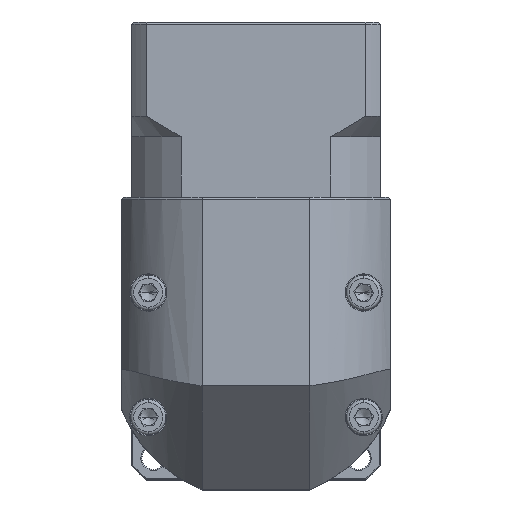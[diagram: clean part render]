
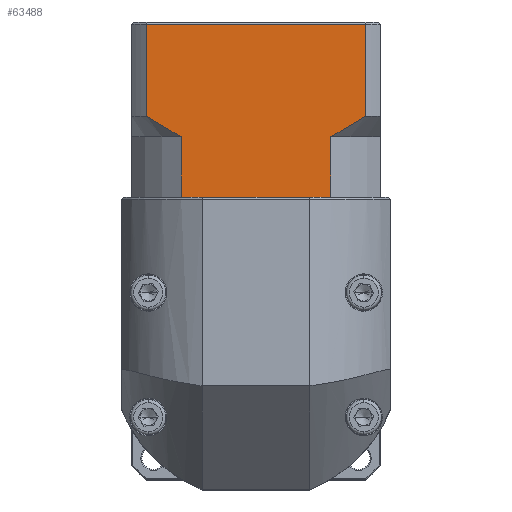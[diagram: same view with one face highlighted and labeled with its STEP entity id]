
A CAD part, top view. The second image highlights one B-rep face of the part: STEP entity #63488.
In plain terms, the highlighted planar face has unit normal (0, 0, 1).
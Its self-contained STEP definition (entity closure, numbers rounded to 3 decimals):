
#2019 = CARTESIAN_POINT ( 'NONE',  ( -81.449, 88.99, 55.322 ) ) ;
#6143 = VERTEX_POINT ( 'NONE', #60533 ) ;
#7122 = CARTESIAN_POINT ( 'NONE',  ( -81.449, 89.49, 55.322 ) ) ;
#8568 = EDGE_CURVE ( 'NONE', #103195, #83133, #104424, .T. ) ;
#9041 = CARTESIAN_POINT ( 'NONE',  ( -81.449, 47.29, 55.322 ) ) ;
#9168 = CARTESIAN_POINT ( 'NONE',  ( -30.54, 63.341, 55.322 ) ) ;
#10555 = VECTOR ( 'NONE', #23513, 1000. ) ;
#11459 = CARTESIAN_POINT ( 'NONE',  ( -69.477, 61.79, 55.322 ) ) ;
#15040 = EDGE_LOOP ( 'NONE', ( #28562, #73381, #57842, #35491, #72743, #55281, #79365, #35586, #102764, #100928 ) ) ;
#15438 = LINE ( 'NONE', #46367, #99660 ) ;
#15610 = EDGE_CURVE ( 'NONE', #40747, #96659, #81964, .T. ) ;
#16130 = CARTESIAN_POINT ( 'NONE',  ( -33.422, 61.79, 55.322 ) ) ;
#16769 = VECTOR ( 'NONE', #112365, 1000. ) ;
#17943 = VECTOR ( 'NONE', #53264, 1000. ) ;
#18625 = DIRECTION ( 'NONE',  ( 0., -1., 0. ) ) ;
#20793 = EDGE_CURVE ( 'NONE', #106658, #47319, #109268, .T. ) ;
#21655 = CARTESIAN_POINT ( 'NONE',  ( -77.907, 66.79, 55.322 ) ) ;
#22036 = CARTESIAN_POINT ( 'NONE',  ( -76.547, 65.891, 55.322 ) ) ;
#23513 = DIRECTION ( 'NONE',  ( 1., 0., 0. ) ) ;
#23944 = CARTESIAN_POINT ( 'NONE',  ( -70.929, 62.538, 55.322 ) ) ;
#24553 = DIRECTION ( 'NONE',  ( 0., 0., -1. ) ) ;
#27784 = DIRECTION ( 'NONE',  ( 0., -1., 0. ) ) ;
#28562 = ORIENTED_EDGE ( 'NONE', *, *, #41984, .F. ) ;
#30602 = CARTESIAN_POINT ( 'NONE',  ( -68.486, 47.29, 55.322 ) ) ;
#32317 = DIRECTION ( 'NONE',  ( 1., 0., 0. ) ) ;
#33046 = CARTESIAN_POINT ( 'NONE',  ( -69.477, 61.79, 55.322 ) ) ;
#33486 = AXIS2_PLACEMENT_3D ( 'NONE', #7122, #24553, #59478 ) ;
#34674 = CARTESIAN_POINT ( 'NONE',  ( -77.907, 66.79, 55.322 ) ) ;
#34704 = CARTESIAN_POINT ( 'NONE',  ( -24.992, 66.79, 55.322 ) ) ;
#35491 = ORIENTED_EDGE ( 'NONE', *, *, #15610, .T. ) ;
#35586 = ORIENTED_EDGE ( 'NONE', *, *, #20793, .T. ) ;
#35724 = CARTESIAN_POINT ( 'NONE',  ( -24.992, 66.79, 55.322 ) ) ;
#35769 = CARTESIAN_POINT ( 'NONE',  ( -33.422, 47.29, 55.322 ) ) ;
#39660 = LINE ( 'NONE', #2019, #17943 ) ;
#40179 = CARTESIAN_POINT ( 'NONE',  ( -69.477, 61.79, 55.322 ) ) ;
#40747 = VERTEX_POINT ( 'NONE', #34674 ) ;
#41984 = EDGE_CURVE ( 'NONE', #6143, #83133, #107593, .T. ) ;
#42446 = VECTOR ( 'NONE', #32317, 1000. ) ;
#45744 = EDGE_CURVE ( 'NONE', #40747, #90830, #52411, .T. ) ;
#46367 = CARTESIAN_POINT ( 'NONE',  ( -33.422, 61.79, 55.322 ) ) ;
#46589 = VECTOR ( 'NONE', #27784, 1000. ) ;
#47319 = VERTEX_POINT ( 'NONE', #35769 ) ;
#48929 = DIRECTION ( 'NONE',  ( 0., 1., 0. ) ) ;
#49329 = PLANE ( 'NONE',  #33486 ) ;
#49730 = VECTOR ( 'NONE', #72968, 1000. ) ;
#51138 = VERTEX_POINT ( 'NONE', #82625 ) ;
#51744 = CARTESIAN_POINT ( 'NONE',  ( -31.965, 62.54, 55.322 ) ) ;
#52411 = LINE ( 'NONE', #90018, #49730 ) ;
#53264 = DIRECTION ( 'NONE',  ( -1., 0., 0. ) ) ;
#55281 = ORIENTED_EDGE ( 'NONE', *, *, #103463, .T. ) ;
#57842 = ORIENTED_EDGE ( 'NONE', *, *, #45744, .F. ) ;
#58974 = EDGE_CURVE ( 'NONE', #6143, #90830, #39660, .T. ) ;
#59478 = DIRECTION ( 'NONE',  ( 0., 1., 0. ) ) ;
#60458 = CARTESIAN_POINT ( 'NONE',  ( -26.355, 65.889, 55.322 ) ) ;
#60533 = CARTESIAN_POINT ( 'NONE',  ( -24.992, 88.99, 55.322 ) ) ;
#61245 = CARTESIAN_POINT ( 'NONE',  ( -24.992, 61.79, 55.322 ) ) ;
#63488 = ADVANCED_FACE ( 'NONE', ( #67474 ), #49329, .F. ) ;
#65151 = EDGE_CURVE ( 'NONE', #51138, #96659, #112583, .T. ) ;
#67474 = FACE_OUTER_BOUND ( 'NONE', #15040, .T. ) ;
#70097 = EDGE_CURVE ( 'NONE', #103195, #47319, #15438, .T. ) ;
#72743 = ORIENTED_EDGE ( 'NONE', *, *, #65151, .F. ) ;
#72968 = DIRECTION ( 'NONE',  ( 0., 1., 0. ) ) ;
#73381 = ORIENTED_EDGE ( 'NONE', *, *, #58974, .T. ) ;
#74952 = CARTESIAN_POINT ( 'NONE',  ( -81.449, 47.29, 55.322 ) ) ;
#75743 = VECTOR ( 'NONE', #48929, 1000. ) ;
#75994 = CARTESIAN_POINT ( 'NONE',  ( -75.168, 65.017, 55.322 ) ) ;
#77756 = LINE ( 'NONE', #74952, #42446 ) ;
#78661 = CARTESIAN_POINT ( 'NONE',  ( -27.734, 65.015, 55.322 ) ) ;
#79365 = ORIENTED_EDGE ( 'NONE', *, *, #112221, .T. ) ;
#81964 = B_SPLINE_CURVE_WITH_KNOTS ( 'NONE', 3,
 ( #21655, #22036, #75994, #82415, #23944, #33046 ),
 .UNSPECIFIED., .F., .F.,
 ( 4, 2, 4 ),
 ( 0.052, 0.057, 0.062 ),
 .UNSPECIFIED. ) ;
#82351 = CARTESIAN_POINT ( 'NONE',  ( -34.413, 47.29, 55.322 ) ) ;
#82415 = CARTESIAN_POINT ( 'NONE',  ( -72.361, 63.342, 55.322 ) ) ;
#82625 = CARTESIAN_POINT ( 'NONE',  ( -69.477, 47.29, 55.322 ) ) ;
#83133 = VERTEX_POINT ( 'NONE', #34704 ) ;
#83526 = CARTESIAN_POINT ( 'NONE',  ( -81.449, 47.29, 55.322 ) ) ;
#83866 = LINE ( 'NONE', #83526, #10555 ) ;
#87264 = VERTEX_POINT ( 'NONE', #30602 ) ;
#90018 = CARTESIAN_POINT ( 'NONE',  ( -77.907, 61.79, 55.322 ) ) ;
#90531 = CARTESIAN_POINT ( 'NONE',  ( -77.907, 88.99, 55.322 ) ) ;
#90830 = VERTEX_POINT ( 'NONE', #90531 ) ;
#95364 = CARTESIAN_POINT ( 'NONE',  ( -33.422, 61.79, 55.322 ) ) ;
#96659 = VERTEX_POINT ( 'NONE', #11459 ) ;
#99660 = VECTOR ( 'NONE', #18625, 1000. ) ;
#100928 = ORIENTED_EDGE ( 'NONE', *, *, #8568, .T. ) ;
#102764 = ORIENTED_EDGE ( 'NONE', *, *, #70097, .F. ) ;
#103195 = VERTEX_POINT ( 'NONE', #16130 ) ;
#103463 = EDGE_CURVE ( 'NONE', #51138, #87264, #77756, .T. ) ;
#104424 = B_SPLINE_CURVE_WITH_KNOTS ( 'NONE', 3,
 ( #95364, #51744, #9168, #78661, #60458, #35724 ),
 .UNSPECIFIED., .F., .F.,
 ( 4, 2, 4 ),
 ( 0.1, 0.104, 0.109 ),
 .UNSPECIFIED. ) ;
#106658 = VERTEX_POINT ( 'NONE', #82351 ) ;
#107593 = LINE ( 'NONE', #61245, #46589 ) ;
#109268 = LINE ( 'NONE', #9041, #16769 ) ;
#112221 = EDGE_CURVE ( 'NONE', #87264, #106658, #83866, .T. ) ;
#112365 = DIRECTION ( 'NONE',  ( 1., 0., 0. ) ) ;
#112583 = LINE ( 'NONE', #40179, #75743 ) ;
